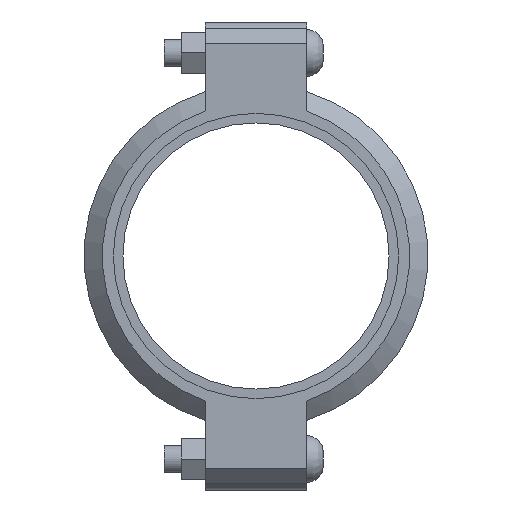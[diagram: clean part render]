
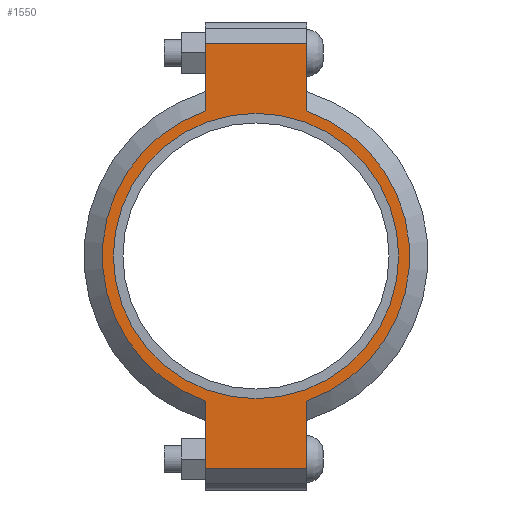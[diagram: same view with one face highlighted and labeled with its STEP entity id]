
A CAD part, left-side view. The second image highlights one B-rep face of the part: STEP entity #1550.
In plain terms, the highlighted planar face has unit normal (-1, 0, 0) as drawn and (0, 0, 1) by its records, which use the part's own axes.
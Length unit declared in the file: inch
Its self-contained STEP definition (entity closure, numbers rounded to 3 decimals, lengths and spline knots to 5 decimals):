
#174=LINE('',#2714,#267);
#182=LINE('',#2750,#275);
#189=LINE('',#2771,#282);
#198=LINE('',#2803,#291);
#199=LINE('',#2807,#292);
#200=LINE('',#2809,#293);
#267=VECTOR('',#2214,0.3937);
#275=VECTOR('',#2230,0.3937);
#282=VECTOR('',#2249,0.3937);
#291=VECTOR('',#2274,0.3937);
#292=VECTOR('',#2279,0.3937);
#293=VECTOR('',#2280,0.3937);
#349=FACE_BOUND('',#527,.T.);
#421=FACE_OUTER_BOUND('',#526,.T.);
#526=EDGE_LOOP('',(#1291,#1292,#1293,#1294,#1295,#1296,#1297,#1298));
#527=EDGE_LOOP('',(#1299));
#599=CIRCLE('',#1778,3.25);
#625=CIRCLE('',#1837,3.5);
#626=CIRCLE('',#1838,3.5);
#691=VERTEX_POINT('',#2530);
#734=VERTEX_POINT('',#2711);
#735=VERTEX_POINT('',#2713);
#746=VERTEX_POINT('',#2745);
#747=VERTEX_POINT('',#2749);
#754=VERTEX_POINT('',#2768);
#755=VERTEX_POINT('',#2770);
#765=VERTEX_POINT('',#2806);
#766=VERTEX_POINT('',#2808);
#847=EDGE_CURVE('',#691,#691,#599,.T.);
#908=EDGE_CURVE('',#735,#734,#174,.T.);
#922=EDGE_CURVE('',#747,#746,#182,.T.);
#932=EDGE_CURVE('',#755,#754,#189,.T.);
#947=EDGE_CURVE('',#747,#734,#198,.T.);
#948=EDGE_CURVE('',#746,#755,#625,.T.);
#949=EDGE_CURVE('',#765,#754,#199,.T.);
#950=EDGE_CURVE('',#765,#766,#200,.T.);
#951=EDGE_CURVE('',#766,#735,#626,.T.);
#1291=ORIENTED_EDGE('',*,*,#947,.F.);
#1292=ORIENTED_EDGE('',*,*,#922,.T.);
#1293=ORIENTED_EDGE('',*,*,#948,.T.);
#1294=ORIENTED_EDGE('',*,*,#932,.T.);
#1295=ORIENTED_EDGE('',*,*,#949,.F.);
#1296=ORIENTED_EDGE('',*,*,#950,.T.);
#1297=ORIENTED_EDGE('',*,*,#951,.T.);
#1298=ORIENTED_EDGE('',*,*,#908,.T.);
#1299=ORIENTED_EDGE('',*,*,#847,.T.);
#1392=PLANE('',#1836);
#1550=ADVANCED_FACE('',(#421,#349),#1392,.T.);
#1778=AXIS2_PLACEMENT_3D('',#2532,#2090,#2091);
#1836=AXIS2_PLACEMENT_3D('',#2804,#2275,#2276);
#1837=AXIS2_PLACEMENT_3D('',#2805,#2277,#2278);
#1838=AXIS2_PLACEMENT_3D('',#2810,#2281,#2282);
#2090=DIRECTION('center_axis',(0.,0.,-1.));
#2091=DIRECTION('ref_axis',(1.,0.,0.));
#2214=DIRECTION('',(1.,0.,0.));
#2230=DIRECTION('',(-1.,0.,0.));
#2249=DIRECTION('',(-1.,0.,0.));
#2274=DIRECTION('',(0.,-1.,0.));
#2275=DIRECTION('center_axis',(0.,0.,1.));
#2276=DIRECTION('ref_axis',(-1.,0.,0.));
#2277=DIRECTION('center_axis',(0.,0.,1.));
#2278=DIRECTION('ref_axis',(1.,0.,0.));
#2279=DIRECTION('',(0.,1.,0.));
#2280=DIRECTION('',(1.,0.,0.));
#2281=DIRECTION('center_axis',(0.,0.,1.));
#2282=DIRECTION('ref_axis',(1.,0.,0.));
#2530=CARTESIAN_POINT('',(-3.25,0.,1.04));
#2532=CARTESIAN_POINT('Origin',(0.,0.,1.04));
#2711=CARTESIAN_POINT('',(4.83,-1.156,1.04));
#2713=CARTESIAN_POINT('',(3.30358,-1.156,1.04));
#2714=CARTESIAN_POINT('',(5.33,-1.156,1.04));
#2745=CARTESIAN_POINT('',(3.30358,1.156,1.04));
#2749=CARTESIAN_POINT('',(4.83,1.156,1.04));
#2750=CARTESIAN_POINT('',(-5.33,1.156,1.04));
#2768=CARTESIAN_POINT('',(-4.83,1.156,1.04));
#2770=CARTESIAN_POINT('',(-3.30358,1.156,1.04));
#2771=CARTESIAN_POINT('',(-5.33,1.156,1.04));
#2803=CARTESIAN_POINT('',(4.83,-0.578,1.04));
#2804=CARTESIAN_POINT('Origin',(0.,0.,
1.04));
#2805=CARTESIAN_POINT('Origin',(0.,0.,1.04));
#2806=CARTESIAN_POINT('',(-4.83,-1.156,1.04));
#2807=CARTESIAN_POINT('',(-4.83,0.578,1.04));
#2808=CARTESIAN_POINT('',(-3.30358,-1.156,1.04));
#2809=CARTESIAN_POINT('',(5.33,-1.156,1.04));
#2810=CARTESIAN_POINT('Origin',(0.,0.,1.04));
